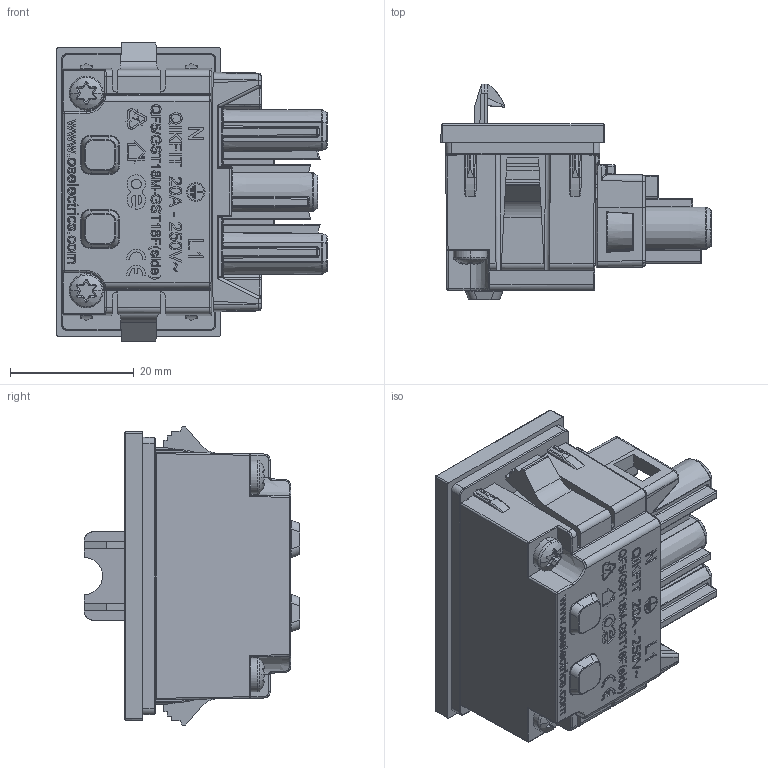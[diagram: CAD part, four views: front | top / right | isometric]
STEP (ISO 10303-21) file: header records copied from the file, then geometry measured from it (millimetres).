
FILE_DESCRIPTION (( 'STEP AP203' ), '1' );
FILE_NAME ('QIKFIT-WIELAND-Module 1.STEP', '2019-07-16T13:02:24', ( '' ), ( '' ), 'SwSTEP 2.0', 'SolidWorks 2019', '' );
FILE_SCHEMA (( 'CONFIG_CONTROL_DESIGN' ));
Products named in the file (1): QIKFIT-WIELAND-Module 1
Bounding box: 43.75 x 34.95 x 48.41 mm (x, y, z)
Volume: 27034.2 mm3; surface area: 13489.4 mm2
Topology: 1 solids, 7 shells, 2397 faces, 6235 edges, 3889 vertices
Faces by surface type: plane 1061, bspline 614, cylinder 510, sphere 104, torus 55, cone 53
Entity records: 93237 total; most frequent: CARTESIAN_POINT 40383, ORIENTED_EDGE 12354, DIRECTION 8995, EDGE_CURVE 6177, VERTEX_POINT 3881, LINE 3449, VECTOR 3449, AXIS2_PLACEMENT_3D 2773
